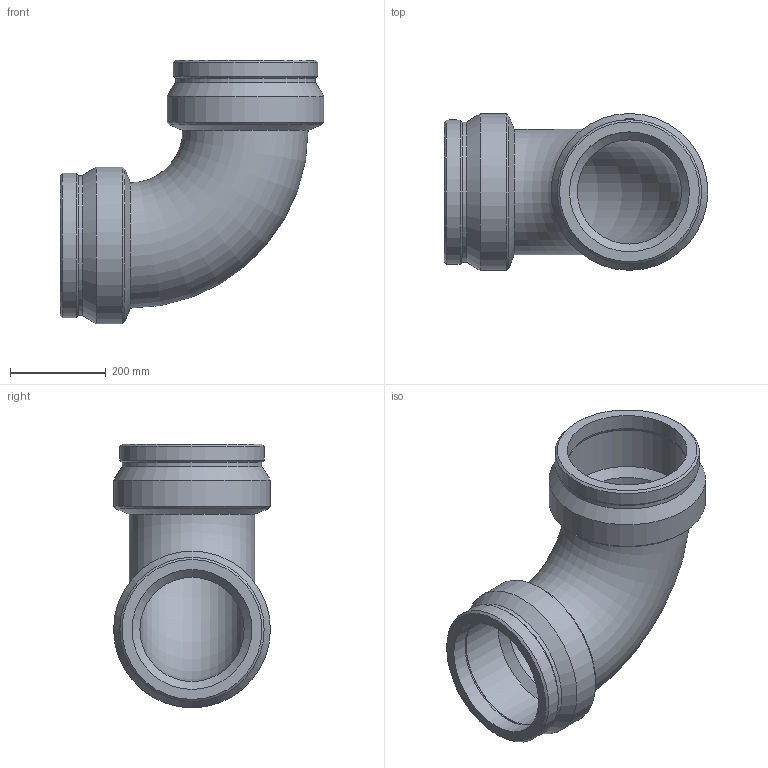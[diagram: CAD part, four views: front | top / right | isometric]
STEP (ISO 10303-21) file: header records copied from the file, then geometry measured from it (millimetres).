
FILE_DESCRIPTION(/* description */ ('PLASSON 90° ELBOW 250'),/* implementation_level */ '2;1');
FILE_NAME(/* name */ '490504250.stp',/* time_stamp */ '2026-03-22T13:12:57+02:00',/* author */ ('KIM'),/* organization */ (''),/* preprocessor_version */ 'ST-DEVELOPER v20.1',/* originating_system */ 'Autodesk Inventor 2026',/* authorisation */ '');
FILE_SCHEMA (('AUTOMOTIVE_DESIGN { 1 0 10303 214 3 1 1 }'));
Length unit declared in the file: millimetre
Products named in the file (1): 490504250
Bounding box: 550 x 327 x 550 mm (x, y, z)
Volume: 14442069.4 mm3; surface area: 1185035.6 mm2
Topology: 1 solids, 1 shells, 42 faces, 82 edges, 50 vertices
Faces by surface type: cone 16, cylinder 14, plane 10, torus 2
Full cylindrical faces by diameter (mm): 4 x2, 10 x2, 250 x4, 291.815 x2, 300.84 x2, 327 x2
Entity records: 1189 total; most frequent: CARTESIAN_POINT 243, DIRECTION 212, ORIENTED_EDGE 164, AXIS2_PLACEMENT_3D 91, EDGE_CURVE 82, EDGE_LOOP 52, VERTEX_POINT 50, CIRCLE 48
